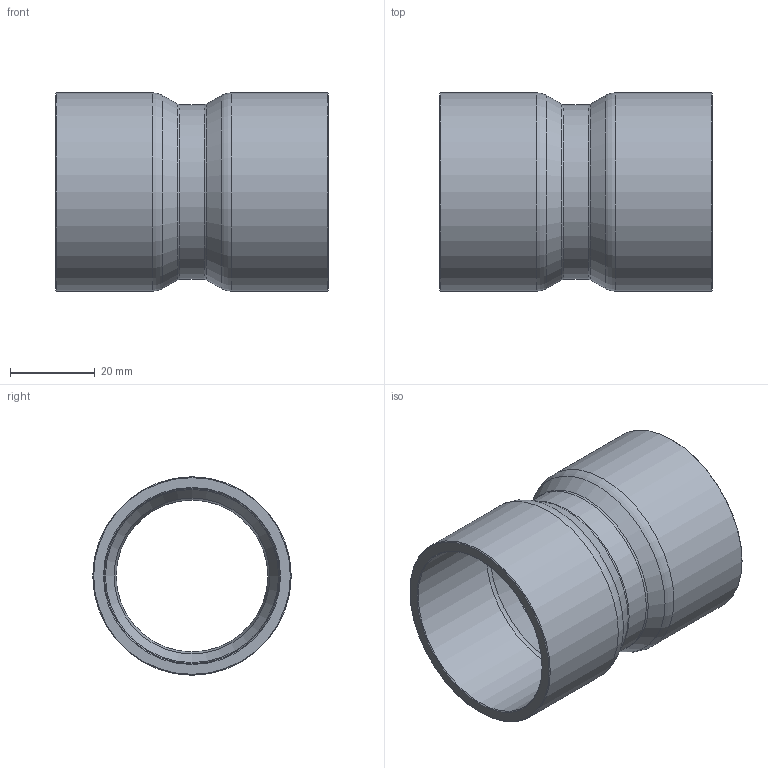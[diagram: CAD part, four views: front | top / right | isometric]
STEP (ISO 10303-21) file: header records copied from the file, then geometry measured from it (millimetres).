
FILE_DESCRIPTION((''),'2;1');
FILE_NAME('G:\SANHA-Ternat\Technik\Management\Bouwmaten + markeringen\z-maattekeningen 3D\29000s\29270158_3d.stp','2017-08-03T14:50:36',('vdvijverd'),(''),'Autodesk Inventor 2009','Autodesk Inventor 2009','');
FILE_SCHEMA(('AUTOMOTIVE_DESIGN { 1 0 10303 214 1 1 1 1 }'));
Length unit declared in the file: millimetre
Products named in the file (1): 29270158_3d
Bounding box: 64.5 x 46.9 x 46.9 mm (x, y, z)
Volume: 24220 mm3; surface area: 18528.4 mm2
Topology: 1 solids, 1 shells, 24 faces, 46 edges, 24 vertices
Faces by surface type: cone 8, cylinder 6, torus 4, bspline 4, plane 2
Full cylindrical faces by diameter (mm): 35.87 x1, 41.27 x1, 41.455 x2, 46.9 x2
Entity records: 674 total; most frequent: CARTESIAN_POINT 249, DIRECTION 90, ORIENTED_EDGE 48, EDGE_LOOP 48, AXIS2_PLACEMENT_3D 45, VERTEX_POINT 24, CIRCLE 24, EDGE_CURVE 24
